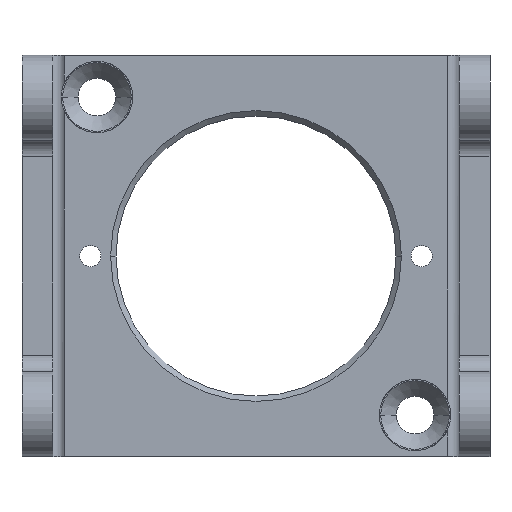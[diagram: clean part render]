
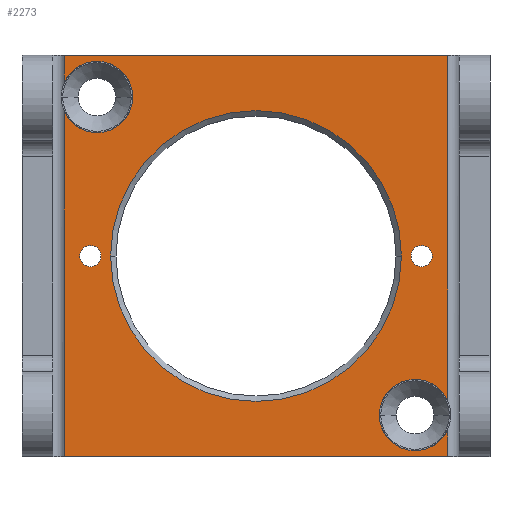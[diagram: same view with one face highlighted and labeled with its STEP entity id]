
A CAD part, top view. The second image highlights one B-rep face of the part: STEP entity #2273.
In plain terms, the highlighted planar face has unit normal (0, 0, 1).
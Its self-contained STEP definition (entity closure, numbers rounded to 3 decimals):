
#58=DIRECTION('',(-1.,0.,0.));
#59=VECTOR('',#58,36.128);
#60=CARTESIAN_POINT('',(18.064,-18.923,1.397));
#61=LINE('',#60,#59);
#418=DIRECTION('',(0.,1.,0.));
#419=VECTOR('',#418,32.531);
#420=CARTESIAN_POINT('',(-18.064,-18.923,1.397));
#421=LINE('',#420,#419);
#426=DIRECTION('',(0.,1.,0.));
#427=VECTOR('',#426,2.531);
#428=CARTESIAN_POINT('',(-18.064,16.392,1.397));
#429=LINE('',#428,#427);
#430=CARTESIAN_POINT('',(-15.,15.,1.397));
#431=DIRECTION('',(0.,0.,-1.));
#432=DIRECTION('',(1.,0.,0.));
#433=AXIS2_PLACEMENT_3D('',#430,#431,#432);
#435=CARTESIAN_POINT('',(-15.,15.,1.397));
#436=DIRECTION('',(0.,0.,-1.));
#437=DIRECTION('',(-0.91,0.414,0.));
#438=AXIS2_PLACEMENT_3D('',#435,#436,#437);
#440=DIRECTION('',(-1.,0.,0.));
#441=VECTOR('',#440,36.128);
#442=CARTESIAN_POINT('',(18.064,18.923,1.397));
#443=LINE('',#442,#441);
#444=CARTESIAN_POINT('',(15.,-15.,1.397));
#445=DIRECTION('',(0.,0.,-1.));
#446=DIRECTION('',(-1.,0.,0.));
#447=AXIS2_PLACEMENT_3D('',#444,#445,#446);
#449=CARTESIAN_POINT('',(15.,-15.,1.397));
#450=DIRECTION('',(0.,0.,-1.));
#451=DIRECTION('',(0.91,-0.414,0.));
#452=AXIS2_PLACEMENT_3D('',#449,#450,#451);
#454=CARTESIAN_POINT('',(0.,0.,1.397));
#455=DIRECTION('',(0.,0.,-1.));
#456=DIRECTION('',(1.,0.,0.));
#457=AXIS2_PLACEMENT_3D('',#454,#455,#456);
#459=CARTESIAN_POINT('',(0.,0.,1.397));
#460=DIRECTION('',(0.,0.,-1.));
#461=DIRECTION('',(-1.,0.,0.));
#462=AXIS2_PLACEMENT_3D('',#459,#460,#461);
#464=CARTESIAN_POINT('',(15.621,0.,1.397));
#465=DIRECTION('',(0.,0.,-1.));
#466=DIRECTION('',(-1.,0.,0.));
#467=AXIS2_PLACEMENT_3D('',#464,#465,#466);
#469=CARTESIAN_POINT('',(15.621,0.,1.397));
#470=DIRECTION('',(0.,0.,-1.));
#471=DIRECTION('',(1.,0.,0.));
#472=AXIS2_PLACEMENT_3D('',#469,#470,#471);
#474=CARTESIAN_POINT('',(-15.621,0.,1.397));
#475=DIRECTION('',(0.,0.,-1.));
#476=DIRECTION('',(-1.,0.,0.));
#477=AXIS2_PLACEMENT_3D('',#474,#475,#476);
#479=CARTESIAN_POINT('',(-15.621,0.,1.397));
#480=DIRECTION('',(0.,0.,-1.));
#481=DIRECTION('',(1.,0.,0.));
#482=AXIS2_PLACEMENT_3D('',#479,#480,#481);
#484=DIRECTION('',(0.,-1.,0.));
#485=VECTOR('',#484,32.531);
#486=CARTESIAN_POINT('',(18.064,18.923,1.397));
#487=LINE('',#486,#485);
#492=DIRECTION('',(0.,-1.,0.));
#493=VECTOR('',#492,2.531);
#494=CARTESIAN_POINT('',(18.064,-16.392,1.397));
#495=LINE('',#494,#493);
#1104=CARTESIAN_POINT('',(-18.064,16.392,1.397));
#1180=CARTESIAN_POINT('',(18.064,-13.608,1.397));
#1523=VERTEX_POINT('',#1104);
#1526=VERTEX_POINT('',#1180);
#1527=CARTESIAN_POINT('',(18.064,18.923,1.397));
#1528=VERTEX_POINT('',#1527);
#1529=CARTESIAN_POINT('',(-18.064,18.923,1.397));
#1530=VERTEX_POINT('',#1529);
#1531=CARTESIAN_POINT('',(-11.635,15.,1.397));
#1532=VERTEX_POINT('',#1531);
#1533=CARTESIAN_POINT('',(-18.064,-18.923,1.397));
#1534=CARTESIAN_POINT('',(-18.064,13.608,1.397));
#1535=VERTEX_POINT('',#1533);
#1536=VERTEX_POINT('',#1534);
#1563=CARTESIAN_POINT('',(-13.716,0.,1.397));
#1564=CARTESIAN_POINT('',(13.716,0.,1.397));
#1565=VERTEX_POINT('',#1563);
#1566=VERTEX_POINT('',#1564);
#1585=CARTESIAN_POINT('',(18.064,-18.923,1.397));
#1586=VERTEX_POINT('',#1585);
#1639=CARTESIAN_POINT('',(18.064,-16.392,1.397));
#1640=VERTEX_POINT('',#1639);
#1641=CARTESIAN_POINT('',(11.635,-15.,1.397));
#1642=VERTEX_POINT('',#1641);
#1743=CARTESIAN_POINT('',(14.621,0.,1.397));
#1744=CARTESIAN_POINT('',(16.621,0.,1.397));
#1745=VERTEX_POINT('',#1743);
#1746=VERTEX_POINT('',#1744);
#1747=CARTESIAN_POINT('',(-16.621,0.,1.397));
#1748=CARTESIAN_POINT('',(-14.621,0.,1.397));
#1749=VERTEX_POINT('',#1747);
#1750=VERTEX_POINT('',#1748);
#2232=CARTESIAN_POINT('',(-19.177,18.923,1.397));
#2233=DIRECTION('',(0.,0.,-1.));
#2234=DIRECTION('',(-1.,0.,0.));
#2235=AXIS2_PLACEMENT_3D('',#2232,#2233,#2234);
#2236=PLANE('',#2235);
#2238=ORIENTED_EDGE('',*,*,#2237,.T.);
#2239=ORIENTED_EDGE('',*,*,#1841,.T.);
#2240=ORIENTED_EDGE('',*,*,#2218,.T.);
#2242=ORIENTED_EDGE('',*,*,#2241,.F.);
#2244=ORIENTED_EDGE('',*,*,#2243,.F.);
#2245=ORIENTED_EDGE('',*,*,#2223,.T.);
#2246=ORIENTED_EDGE('',*,*,#1788,.F.);
#2248=ORIENTED_EDGE('',*,*,#2247,.T.);
#2250=ORIENTED_EDGE('',*,*,#2249,.F.);
#2252=ORIENTED_EDGE('',*,*,#2251,.F.);
#2253=EDGE_LOOP('',(#2238,#2239,#2240,#2242,#2244,#2245,#2246,#2248,#2250,
#2252));
#2254=FACE_OUTER_BOUND('',#2253,.F.);
#2256=ORIENTED_EDGE('',*,*,#2255,.F.);
#2258=ORIENTED_EDGE('',*,*,#2257,.F.);
#2259=EDGE_LOOP('',(#2256,#2258));
#2260=FACE_BOUND('',#2259,.F.);
#2262=ORIENTED_EDGE('',*,*,#2261,.F.);
#2264=ORIENTED_EDGE('',*,*,#2263,.F.);
#2265=EDGE_LOOP('',(#2262,#2264));
#2266=FACE_BOUND('',#2265,.F.);
#2268=ORIENTED_EDGE('',*,*,#2267,.F.);
#2270=ORIENTED_EDGE('',*,*,#2269,.F.);
#2271=EDGE_LOOP('',(#2268,#2270));
#2272=FACE_BOUND('',#2271,.F.);
#2273=ADVANCED_FACE('',(#2254,#2260,#2266,#2272),#2236,.F.);
#434=CIRCLE('',#433,3.366);
#439=CIRCLE('',#438,3.366);
#448=CIRCLE('',#447,3.366);
#453=CIRCLE('',#452,3.366);
#458=CIRCLE('',#457,13.716);
#463=CIRCLE('',#462,13.716);
#468=CIRCLE('',#467,1.);
#473=CIRCLE('',#472,1.);
#478=CIRCLE('',#477,1.);
#483=CIRCLE('',#482,1.);
#1788=EDGE_CURVE('',#1528,#1530,#443,.T.);
#1841=EDGE_CURVE('',#1586,#1535,#61,.T.);
#2218=EDGE_CURVE('',#1535,#1536,#421,.T.);
#2223=EDGE_CURVE('',#1523,#1530,#429,.T.);
#2237=EDGE_CURVE('',#1640,#1586,#495,.T.);
#2241=EDGE_CURVE('',#1532,#1536,#434,.T.);
#2243=EDGE_CURVE('',#1523,#1532,#439,.T.);
#2247=EDGE_CURVE('',#1528,#1526,#487,.T.);
#2249=EDGE_CURVE('',#1642,#1526,#448,.T.);
#2251=EDGE_CURVE('',#1640,#1642,#453,.T.);
#2255=EDGE_CURVE('',#1566,#1565,#458,.T.);
#2257=EDGE_CURVE('',#1565,#1566,#463,.T.);
#2261=EDGE_CURVE('',#1745,#1746,#468,.T.);
#2263=EDGE_CURVE('',#1746,#1745,#473,.T.);
#2267=EDGE_CURVE('',#1749,#1750,#478,.T.);
#2269=EDGE_CURVE('',#1750,#1749,#483,.T.);
